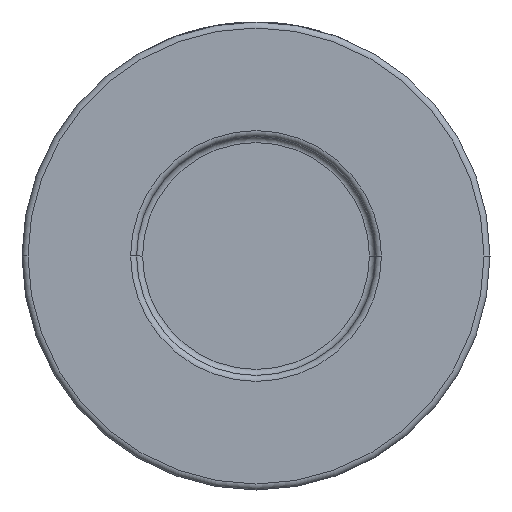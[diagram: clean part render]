
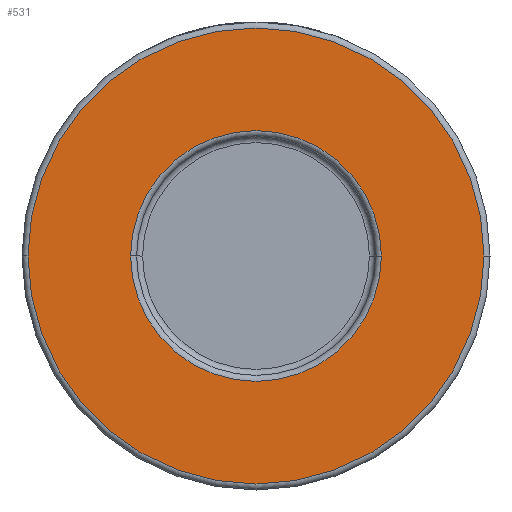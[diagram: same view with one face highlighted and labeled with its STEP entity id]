
A CAD part, front view. The second image highlights one B-rep face of the part: STEP entity #531.
In plain terms, the highlighted planar face has unit normal (0, -1, 0).
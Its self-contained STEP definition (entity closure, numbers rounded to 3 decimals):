
#106 = AXIS2_PLACEMENT_3D ( 'NONE', #982, #591, #1277 ) ;
#130 = CIRCLE ( 'NONE', #647, 38. ) ;
#531 = ADVANCED_FACE ( 'NONE', ( #3303, #3054 ), #1644, .T. ) ;
#553 = DIRECTION ( 'NONE',  ( 1., 0., 0. ) ) ;
#591 = DIRECTION ( 'NONE',  ( 0., -1., 0. ) ) ;
#647 = AXIS2_PLACEMENT_3D ( 'NONE', #3083, #1674, #1695 ) ;
#717 = DIRECTION ( 'NONE',  ( 1., 0., 0. ) ) ;
#744 = EDGE_LOOP ( 'NONE', ( #3818, #2403 ) ) ;
#819 = DIRECTION ( 'NONE',  ( 1., 0., 0. ) ) ;
#982 = CARTESIAN_POINT ( 'NONE',  ( 39., -19., 0. ) ) ;
#1072 = EDGE_LOOP ( 'NONE', ( #2074, #1770 ) ) ;
#1229 = CIRCLE ( 'NONE', #3710, 20.9 ) ;
#1277 = DIRECTION ( 'NONE',  ( 1., 0., 0. ) ) ;
#1302 = VERTEX_POINT ( 'NONE', #3937 ) ;
#1450 = CIRCLE ( 'NONE', #3002, 38. ) ;
#1644 = PLANE ( 'NONE',  #106 ) ;
#1674 = DIRECTION ( 'NONE',  ( 0., -1., 0. ) ) ;
#1695 = DIRECTION ( 'NONE',  ( 1., 0., 0. ) ) ;
#1770 = ORIENTED_EDGE ( 'NONE', *, *, #4230, .T. ) ;
#1794 = CARTESIAN_POINT ( 'NONE',  ( 0., -19., 0. ) ) ;
#2074 = ORIENTED_EDGE ( 'NONE', *, *, #3817, .T. ) ;
#2294 = EDGE_CURVE ( 'NONE', #2989, #3014, #3277, .T. ) ;
#2403 = ORIENTED_EDGE ( 'NONE', *, *, #2699, .T. ) ;
#2462 = CARTESIAN_POINT ( 'NONE',  ( 0., -19., 0. ) ) ;
#2544 = AXIS2_PLACEMENT_3D ( 'NONE', #1794, #2566, #819 ) ;
#2566 = DIRECTION ( 'NONE',  ( 0., 1., 0. ) ) ;
#2699 = EDGE_CURVE ( 'NONE', #3014, #2989, #1229, .T. ) ;
#2989 = VERTEX_POINT ( 'NONE', #3889 ) ;
#3002 = AXIS2_PLACEMENT_3D ( 'NONE', #2462, #3851, #717 ) ;
#3014 = VERTEX_POINT ( 'NONE', #3956 ) ;
#3054 = FACE_OUTER_BOUND ( 'NONE', #1072, .T. ) ;
#3083 = CARTESIAN_POINT ( 'NONE',  ( 0., -19., 0. ) ) ;
#3277 = CIRCLE ( 'NONE', #2544, 20.9 ) ;
#3303 = FACE_BOUND ( 'NONE', #744, .T. ) ;
#3332 = DIRECTION ( 'NONE',  ( 0., 1., 0. ) ) ;
#3377 = CARTESIAN_POINT ( 'NONE',  ( 0., -19., 0. ) ) ;
#3553 = VERTEX_POINT ( 'NONE', #3890 ) ;
#3710 = AXIS2_PLACEMENT_3D ( 'NONE', #3377, #3332, #553 ) ;
#3817 = EDGE_CURVE ( 'NONE', #1302, #3553, #130, .T. ) ;
#3818 = ORIENTED_EDGE ( 'NONE', *, *, #2294, .T. ) ;
#3851 = DIRECTION ( 'NONE',  ( 0., -1., 0. ) ) ;
#3889 = CARTESIAN_POINT ( 'NONE',  ( 20.9, -19., 0. ) ) ;
#3890 = CARTESIAN_POINT ( 'NONE',  ( -38., -19., 0. ) ) ;
#3937 = CARTESIAN_POINT ( 'NONE',  ( 38., -19., 0. ) ) ;
#3956 = CARTESIAN_POINT ( 'NONE',  ( -20.9, -19., 0. ) ) ;
#4230 = EDGE_CURVE ( 'NONE', #3553, #1302, #1450, .T. ) ;
